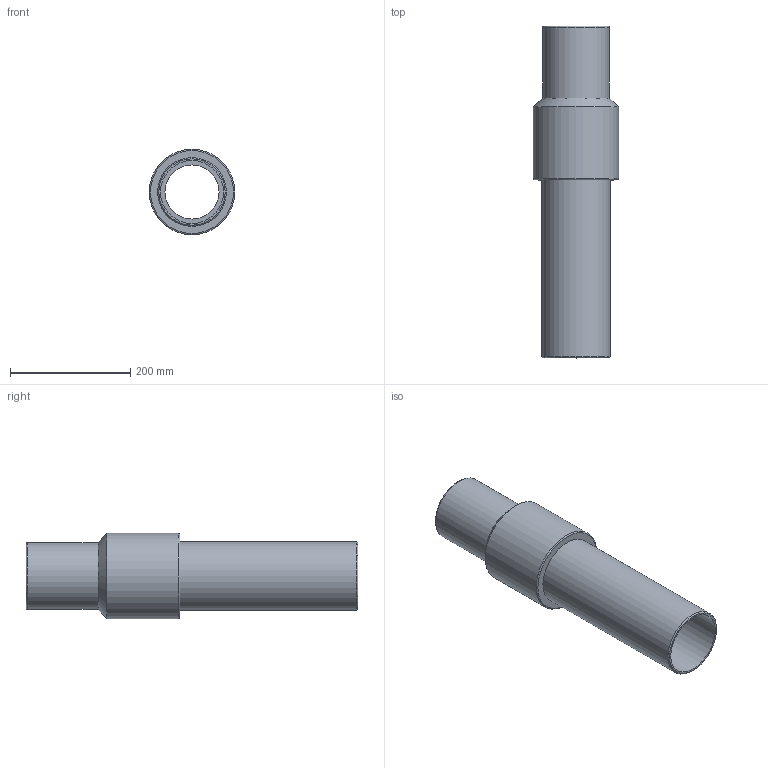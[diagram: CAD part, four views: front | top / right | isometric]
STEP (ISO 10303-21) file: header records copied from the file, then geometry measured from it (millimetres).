
FILE_DESCRIPTION(/* description */ ('Unknown'),/* implementation_level */ '2;1');
FILE_NAME(/* name */ 'RTSNP110C',/* time_stamp */ '2022-04-26T17:30:57+02:00',/* author */ ('Unknown'),/* organization */ ('Unknown'),/* preprocessor_version */ 'ST-DEVELOPER v18.1',/* originating_system */ 'Solid Edge',/* authorisation */ 'Unknown');
FILE_SCHEMA (('AUTOMOTIVE_DESIGN {1 0 10303 214 3 1 1}'));
Length unit declared in the file: millimetre
Products named in the file (3): RTSNP110C; Parte PE_; Partea ACCIAIO
Assembly tree (2 placements, depth 2):
  RTSNP110C
    Parte PE_
    Partea ACCIAIO
Bounding box: 142 x 552 x 142 mm (x, y, z)
Volume: 1825262.5 mm3; surface area: 489971.6 mm2
Topology: 2 solids, 2 shells, 15 faces, 27 edges, 17 vertices
Faces by surface type: cylinder 6, plane 5, cone 2, torus 2
Full cylindrical faces by diameter (mm): 90 x1, 104.74 x1, 110 x1, 114.3 x2, 142 x1
Entity records: 388 total; most frequent: DIRECTION 66, CARTESIAN_POINT 48, AXIS2_PLACEMENT_3D 33, ORIENTED_EDGE 30, EDGE_LOOP 30, FACE_BOUND 30, EDGE_CURVE 15, VERTEX_POINT 15
